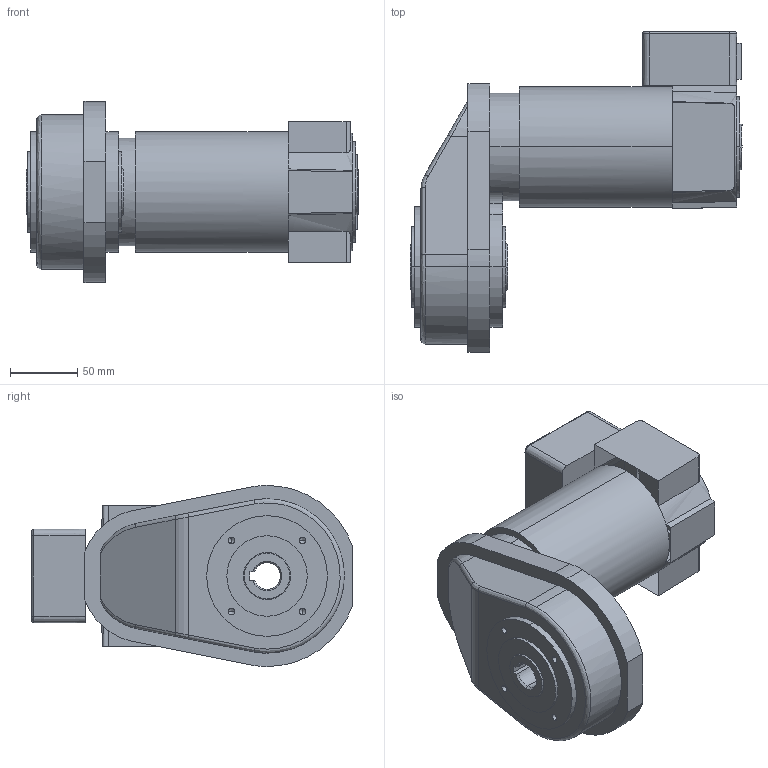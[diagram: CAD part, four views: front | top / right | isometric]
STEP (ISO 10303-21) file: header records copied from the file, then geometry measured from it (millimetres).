
FILE_DESCRIPTION(('OneSpaceDesigner STEP Export'),'2;1');
FILE_NAME('EPG21_KK_FB30.stp','2010-04-13T11:05:28',(''),(''),'OneSpace Designer STEP processor (Jan. 2003) for AP214(CD)(Solid Model)','OneSpace Designer 12.01D 09-Jul-2004 (C) CoCreate Software GmbH','');
FILE_SCHEMA(('AUTOMOTIVE_DESIGN_CC2 {1 2 10303 214 -1 1 5 1}'));
Length unit declared in the file: millimetre
Products named in the file (2): EPG21_KK_FB30
Assembly tree (1 placements, depth 2):
  EPG21_KK_FB30
    EPG21_KK_FB30
Bounding box: 247.5 x 239 x 135 mm (x, y, z)
Volume: 2365796.1 mm3; surface area: 155568.7 mm2
Topology: 1 solids, 1 shells, 186 faces, 454 edges, 282 vertices
Faces by surface type: cylinder 80, plane 57, cone 26, bspline 19, extrusion 4
Entity records: 8830 total; most frequent: CARTESIAN_POINT 4969, ORIENTED_EDGE 876, DIRECTION 592, EDGE_CURVE 438, VERTEX_POINT 282, EDGE_LOOP 216, VECTOR 204, LINE 200
